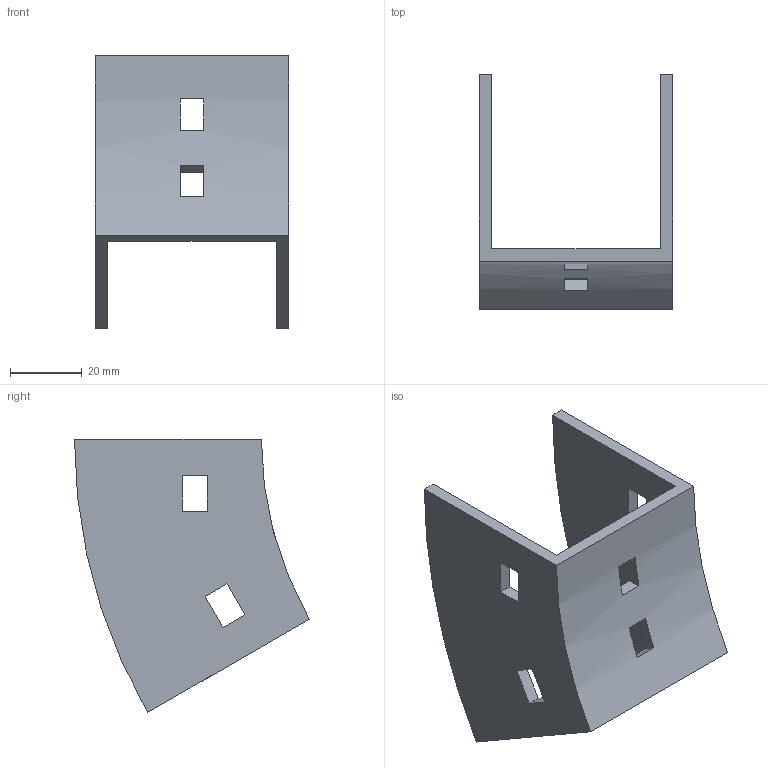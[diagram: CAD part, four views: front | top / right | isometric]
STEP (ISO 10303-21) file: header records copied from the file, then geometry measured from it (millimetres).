
FILE_DESCRIPTION (( 'STEP AP214' ), '1' );
FILE_NAME ('35B1B050.step', '2025-02-21T09:25:10', ( '' ), ( '' ), 'SwSTEP 2.0', 'SolidWorks 2023', '' );
FILE_SCHEMA (( 'AUTOMOTIVE_DESIGN' ));
Length unit declared in the file: millimetre
Products named in the file (1): 35B1B050
Bounding box: 54 x 65.4 x 76 mm (x, y, z)
Volume: 31383.1 mm3; surface area: 20237 mm2
Topology: 1 solids, 1 shells, 34 faces, 96 edges, 64 vertices
Faces by surface type: plane 30, cylinder 4
Entity records: 1143 total; most frequent: CARTESIAN_POINT 195, ORIENTED_EDGE 192, DIRECTION 182, EDGE_CURVE 96, LINE 80, VECTOR 80, VERTEX_POINT 64, AXIS2_PLACEMENT_3D 51
